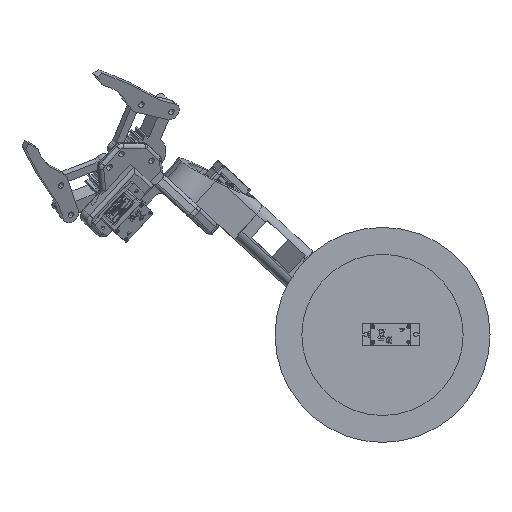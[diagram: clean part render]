
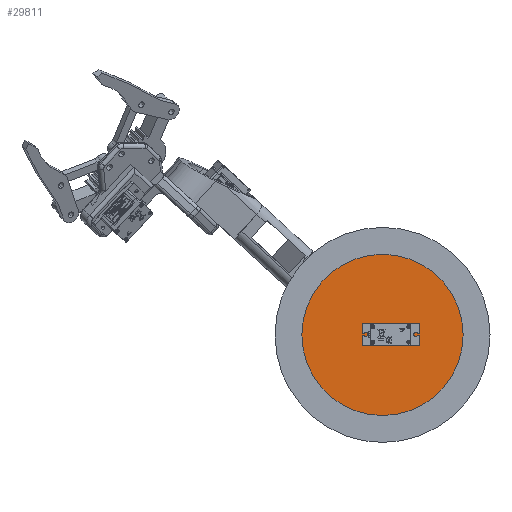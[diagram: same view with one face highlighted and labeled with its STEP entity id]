
A CAD part, front view. The second image highlights one B-rep face of the part: STEP entity #29811.
In plain terms, the highlighted planar face has unit normal (0, -1, 0).
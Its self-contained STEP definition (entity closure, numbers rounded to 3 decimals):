
#293 = CARTESIAN_POINT ( 'NONE',  ( 0., 30., 0. ) ) ;
#1170 = ORIENTED_EDGE ( 'NONE', *, *, #17954, .T. ) ;
#1340 = CARTESIAN_POINT ( 'NONE',  ( 0., 30., -5.85 ) ) ;
#1539 = AXIS2_PLACEMENT_3D ( 'NONE', #293, #22557, #43955 ) ;
#1810 = DIRECTION ( 'NONE',  ( 0., 0., 1. ) ) ;
#2111 = CARTESIAN_POINT ( 'NONE',  ( 0., 30., 45. ) ) ;
#2133 = CARTESIAN_POINT ( 'NONE',  ( -6.1, 30., 0. ) ) ;
#2750 = AXIS2_PLACEMENT_3D ( 'NONE', #42243, #6111, #17052 ) ;
#2798 = CIRCLE ( 'NONE', #5835, 1.5 ) ;
#3614 = DIRECTION ( 'NONE',  ( 0., 1., 0. ) ) ;
#3879 = CIRCLE ( 'NONE', #15985, 1.5 ) ;
#4427 = DIRECTION ( 'NONE',  ( -1., 0., 0. ) ) ;
#4596 = CARTESIAN_POINT ( 'NONE',  ( 14.4, 30., 5.85 ) ) ;
#5139 = CARTESIAN_POINT ( 'NONE',  ( 14.4, 30., -4.35 ) ) ;
#5333 = DIRECTION ( 'NONE',  ( 0., 0., -1. ) ) ;
#5835 = AXIS2_PLACEMENT_3D ( 'NONE', #33474, #30134, #43935 ) ;
#6111 = DIRECTION ( 'NONE',  ( 0., 1., 0. ) ) ;
#7426 = CARTESIAN_POINT ( 'NONE',  ( -4.6, 30., 4.35 ) ) ;
#7743 = VERTEX_POINT ( 'NONE', #36870 ) ;
#8777 = VERTEX_POINT ( 'NONE', #32431 ) ;
#9681 = ORIENTED_EDGE ( 'NONE', *, *, #39935, .T. ) ;
#10582 = EDGE_CURVE ( 'NONE', #45145, #28885, #42479, .T. ) ;
#11344 = VECTOR ( 'NONE', #41511, 1000. ) ;
#11506 = VERTEX_POINT ( 'NONE', #25164 ) ;
#11648 = CARTESIAN_POINT ( 'NONE',  ( 14.4, 30., -5.85 ) ) ;
#13280 = FACE_BOUND ( 'NONE', #21397, .T. ) ;
#14287 = ORIENTED_EDGE ( 'NONE', *, *, #16297, .T. ) ;
#14958 = EDGE_CURVE ( 'NONE', #30750, #23384, #3879, .T. ) ;
#15959 = AXIS2_PLACEMENT_3D ( 'NONE', #45805, #27525, #27052 ) ;
#15985 = AXIS2_PLACEMENT_3D ( 'NONE', #7426, #29264, #43522 ) ;
#16191 = AXIS2_PLACEMENT_3D ( 'NONE', #5139, #41006, #1810 ) ;
#16297 = EDGE_CURVE ( 'NONE', #41335, #30090, #2798, .T. ) ;
#17052 = DIRECTION ( 'NONE',  ( 0., 0., 1. ) ) ;
#17954 = EDGE_CURVE ( 'NONE', #7743, #11506, #28330, .T. ) ;
#19456 = PLANE ( 'NONE',  #15959 ) ;
#19975 = CIRCLE ( 'NONE', #16191, 1.5 ) ;
#20594 = DIRECTION ( 'NONE',  ( 0., 0., 1. ) ) ;
#20931 = ORIENTED_EDGE ( 'NONE', *, *, #39684, .T. ) ;
#21071 = VECTOR ( 'NONE', #20594, 1000. ) ;
#21397 = EDGE_LOOP ( 'NONE', ( #36954, #39587, #20931, #14287, #45415, #29418, #9681, #1170 ) ) ;
#22492 = EDGE_CURVE ( 'NONE', #28885, #45145, #23187, .T. ) ;
#22557 = DIRECTION ( 'NONE',  ( 0., 1., 0. ) ) ;
#22975 = AXIS2_PLACEMENT_3D ( 'NONE', #35681, #3614, #32098 ) ;
#23187 = CIRCLE ( 'NONE', #2750, 45. ) ;
#23384 = VERTEX_POINT ( 'NONE', #42486 ) ;
#23392 = CARTESIAN_POINT ( 'NONE',  ( 15.9, 30., 4.35 ) ) ;
#23689 = LINE ( 'NONE', #2133, #21071 ) ;
#24050 = CARTESIAN_POINT ( 'NONE',  ( 15.9, 30., 0. ) ) ;
#25164 = CARTESIAN_POINT ( 'NONE',  ( -6.1, 30., -4.35 ) ) ;
#26535 = CARTESIAN_POINT ( 'NONE',  ( 0., 30., 5.85 ) ) ;
#27052 = DIRECTION ( 'NONE',  ( 0., 0., 1. ) ) ;
#27525 = DIRECTION ( 'NONE',  ( 0., 1., 0. ) ) ;
#28330 = CIRCLE ( 'NONE', #22975, 1.5 ) ;
#28885 = VERTEX_POINT ( 'NONE', #38208 ) ;
#29264 = DIRECTION ( 'NONE',  ( 0., 1., 0. ) ) ;
#29418 = ORIENTED_EDGE ( 'NONE', *, *, #41983, .T. ) ;
#29811 = ADVANCED_FACE ( 'NONE', ( #13280, #42264 ), #19456, .F. ) ;
#30090 = VERTEX_POINT ( 'NONE', #23392 ) ;
#30134 = DIRECTION ( 'NONE',  ( 0., 1., 0. ) ) ;
#30750 = VERTEX_POINT ( 'NONE', #40233 ) ;
#30845 = VECTOR ( 'NONE', #4427, 1000. ) ;
#32098 = DIRECTION ( 'NONE',  ( 0., 0., 1. ) ) ;
#32431 = CARTESIAN_POINT ( 'NONE',  ( 15.9, 30., -4.35 ) ) ;
#33474 = CARTESIAN_POINT ( 'NONE',  ( 14.4, 30., 4.35 ) ) ;
#34198 = EDGE_CURVE ( 'NONE', #11506, #30750, #23689, .T. ) ;
#34761 = VECTOR ( 'NONE', #5333, 1000. ) ;
#34836 = EDGE_CURVE ( 'NONE', #30090, #8777, #35004, .T. ) ;
#35004 = LINE ( 'NONE', #24050, #34761 ) ;
#35681 = CARTESIAN_POINT ( 'NONE',  ( -4.6, 30., -4.35 ) ) ;
#36870 = CARTESIAN_POINT ( 'NONE',  ( -4.6, 30., -5.85 ) ) ;
#36954 = ORIENTED_EDGE ( 'NONE', *, *, #34198, .T. ) ;
#37411 = LINE ( 'NONE', #1340, #30845 ) ;
#37698 = EDGE_LOOP ( 'NONE', ( #41049, #37770 ) ) ;
#37770 = ORIENTED_EDGE ( 'NONE', *, *, #22492, .F. ) ;
#38208 = CARTESIAN_POINT ( 'NONE',  ( 0., 30., -45. ) ) ;
#39587 = ORIENTED_EDGE ( 'NONE', *, *, #14958, .T. ) ;
#39684 = EDGE_CURVE ( 'NONE', #23384, #41335, #44604, .T. ) ;
#39935 = EDGE_CURVE ( 'NONE', #46343, #7743, #37411, .T. ) ;
#40233 = CARTESIAN_POINT ( 'NONE',  ( -6.1, 30., 4.35 ) ) ;
#41006 = DIRECTION ( 'NONE',  ( 0., 1., 0. ) ) ;
#41049 = ORIENTED_EDGE ( 'NONE', *, *, #10582, .F. ) ;
#41335 = VERTEX_POINT ( 'NONE', #4596 ) ;
#41511 = DIRECTION ( 'NONE',  ( 1., 0., 0. ) ) ;
#41983 = EDGE_CURVE ( 'NONE', #8777, #46343, #19975, .T. ) ;
#42243 = CARTESIAN_POINT ( 'NONE',  ( 0., 30., 0. ) ) ;
#42264 = FACE_OUTER_BOUND ( 'NONE', #37698, .T. ) ;
#42479 = CIRCLE ( 'NONE', #1539, 45. ) ;
#42486 = CARTESIAN_POINT ( 'NONE',  ( -4.6, 30., 5.85 ) ) ;
#43522 = DIRECTION ( 'NONE',  ( 0., 0., 1. ) ) ;
#43935 = DIRECTION ( 'NONE',  ( 0., 0., 1. ) ) ;
#43955 = DIRECTION ( 'NONE',  ( 0., 0., 1. ) ) ;
#44604 = LINE ( 'NONE', #26535, #11344 ) ;
#45145 = VERTEX_POINT ( 'NONE', #2111 ) ;
#45415 = ORIENTED_EDGE ( 'NONE', *, *, #34836, .T. ) ;
#45805 = CARTESIAN_POINT ( 'NONE',  ( 0., 30., 0. ) ) ;
#46343 = VERTEX_POINT ( 'NONE', #11648 ) ;
